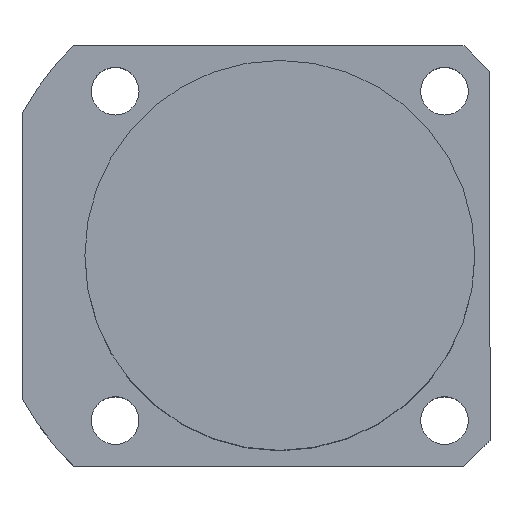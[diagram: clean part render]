
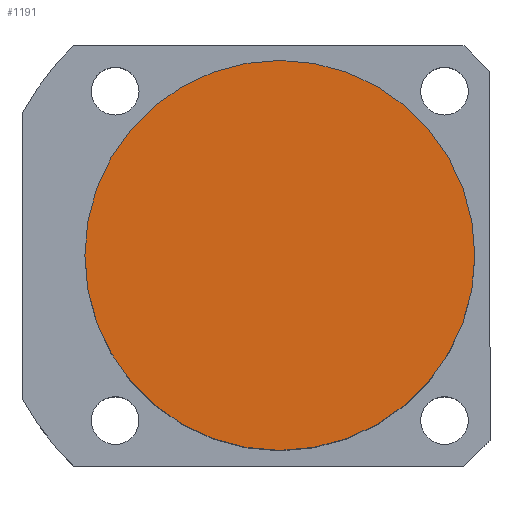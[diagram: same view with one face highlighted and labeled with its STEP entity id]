
A CAD part, top view. The second image highlights one B-rep face of the part: STEP entity #1191.
In plain terms, the highlighted planar face has unit normal (0, 0, 1).
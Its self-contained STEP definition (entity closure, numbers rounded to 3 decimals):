
#302 = CARTESIAN_POINT ( 'NONE',  ( 45., 0., 79.5 ) ) ;
#653 = ORIENTED_EDGE ( 'NONE', *, *, #772, .T. ) ;
#673 = CIRCLE ( 'NONE', #1349, 45. ) ;
#772 = EDGE_CURVE ( 'NONE', #4991, #2545, #5946, .T. ) ;
#1120 = AXIS2_PLACEMENT_3D ( 'NONE', #4476, #6044, #6121 ) ;
#1191 = ADVANCED_FACE ( 'NONE', ( #2049 ), #6067, .T. ) ;
#1349 = AXIS2_PLACEMENT_3D ( 'NONE', #4789, #1540, #5335 ) ;
#1507 = EDGE_CURVE ( 'NONE', #2545, #4991, #673, .T. ) ;
#1540 = DIRECTION ( 'NONE',  ( 0., 0., 1. ) ) ;
#2049 = FACE_OUTER_BOUND ( 'NONE', #2199, .T. ) ;
#2172 = AXIS2_PLACEMENT_3D ( 'NONE', #2241, #5707, #2945 ) ;
#2199 = EDGE_LOOP ( 'NONE', ( #653, #4837 ) ) ;
#2241 = CARTESIAN_POINT ( 'NONE',  ( 0., 0., 79.5 ) ) ;
#2545 = VERTEX_POINT ( 'NONE', #302 ) ;
#2945 = DIRECTION ( 'NONE',  ( 1., 0., 0. ) ) ;
#4188 = CARTESIAN_POINT ( 'NONE',  ( -45., 0., 79.5 ) ) ;
#4476 = CARTESIAN_POINT ( 'NONE',  ( 0., 0., 79.5 ) ) ;
#4789 = CARTESIAN_POINT ( 'NONE',  ( 0., 0., 79.5 ) ) ;
#4837 = ORIENTED_EDGE ( 'NONE', *, *, #1507, .T. ) ;
#4991 = VERTEX_POINT ( 'NONE', #4188 ) ;
#5335 = DIRECTION ( 'NONE',  ( 1., 0., 0. ) ) ;
#5707 = DIRECTION ( 'NONE',  ( 0., 0., 1. ) ) ;
#5946 = CIRCLE ( 'NONE', #2172, 45. ) ;
#6044 = DIRECTION ( 'NONE',  ( 0., 0., 1. ) ) ;
#6067 = PLANE ( 'NONE',  #1120 ) ;
#6121 = DIRECTION ( 'NONE',  ( 1., 0., 0. ) ) ;
